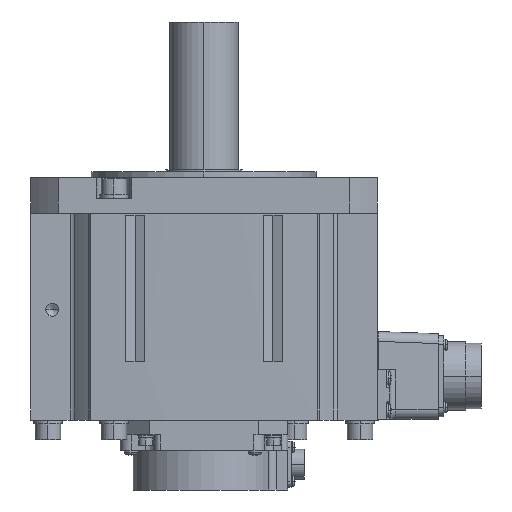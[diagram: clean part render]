
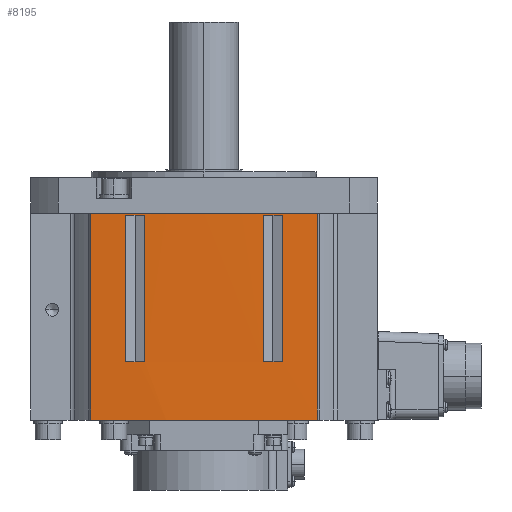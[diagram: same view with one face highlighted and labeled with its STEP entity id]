
A CAD part, left-side view. The second image highlights one B-rep face of the part: STEP entity #8195.
In plain terms, the highlighted cylindrical face has radius 1300 mm (diameter 2600 mm), a partial arc.
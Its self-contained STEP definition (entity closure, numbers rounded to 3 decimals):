
#17=CARTESIAN_POINT('',(1212.,0.,-19.));
#18=DIRECTION('',(0.,0.,1.));
#19=DIRECTION('',(-1.,-0.023,0.));
#20=AXIS2_PLACEMENT_3D('',#17,#18,#19);
#284=CARTESIAN_POINT('',(1212.,0.,-19.));
#285=DIRECTION('',(0.,0.,1.));
#286=DIRECTION('',(-1.,0.031,0.));
#287=AXIS2_PLACEMENT_3D('',#284,#285,#286);
#293=DIRECTION('',(0.,0.,-1.));
#294=VECTOR('',#293,74.5);
#295=CARTESIAN_POINT('',(-87.384,-40.,-19.));
#296=LINE('',#295,#294);
#297=CARTESIAN_POINT('',(1212.,0.,-93.5));
#298=DIRECTION('',(0.,0.,-1.));
#299=DIRECTION('',(-1.,-0.031,0.));
#300=AXIS2_PLACEMENT_3D('',#297,#298,#299);
#312=CARTESIAN_POINT('',(1212.,0.,-93.5));
#313=DIRECTION('',(0.,0.,-1.));
#314=DIRECTION('',(-1.,0.023,0.));
#315=AXIS2_PLACEMENT_3D('',#312,#313,#314);
#317=DIRECTION('',(0.,0.,1.));
#318=VECTOR('',#317,105.);
#319=CARTESIAN_POINT('',(-86.728,57.5,-123.));
#320=LINE('',#319,#318);
#325=DIRECTION('',(0.,0.,1.));
#326=VECTOR('',#325,74.5);
#327=CARTESIAN_POINT('',(-87.654,-30.,-93.5));
#328=LINE('',#327,#326);
#353=DIRECTION('',(0.,0.,1.));
#354=VECTOR('',#353,74.5);
#355=CARTESIAN_POINT('',(-87.384,40.,-93.5));
#356=LINE('',#355,#354);
#381=DIRECTION('',(0.,0.,-1.));
#382=VECTOR('',#381,74.5);
#383=CARTESIAN_POINT('',(-87.654,30.,-19.));
#384=LINE('',#383,#382);
#393=DIRECTION('',(0.,0.,1.));
#394=VECTOR('',#393,105.);
#395=CARTESIAN_POINT('',(-86.728,-57.5,-123.));
#396=LINE('',#395,#394);
#891=CARTESIAN_POINT('',(1212.,0.,-123.));
#892=DIRECTION('',(0.,0.,1.));
#893=DIRECTION('',(-0.999,0.044,0.));
#894=AXIS2_PLACEMENT_3D('',#891,#892,#893);
#4628=CARTESIAN_POINT('',(1212.,0.,-18.));
#4629=DIRECTION('',(0.,0.,-1.));
#4630=DIRECTION('',(-1.,0.,0.));
#4631=AXIS2_PLACEMENT_3D('',#4628,#4629,#4630);
#4805=CARTESIAN_POINT('',(1212.,0.,-18.));
#4806=DIRECTION('',(0.,0.,-1.));
#4807=DIRECTION('',(-0.999,-0.044,0.));
#4808=AXIS2_PLACEMENT_3D('',#4805,#4806,#4807);
#5873=CARTESIAN_POINT('',(-88.,0.,-18.));
#5875=VERTEX_POINT('',#5873);
#5888=CARTESIAN_POINT('',(-86.728,-57.5,-18.));
#5889=VERTEX_POINT('',#5888);
#5892=CARTESIAN_POINT('',(-86.728,57.5,-18.));
#5893=VERTEX_POINT('',#5892);
#6108=CARTESIAN_POINT('',(-86.728,57.5,-123.));
#6109=CARTESIAN_POINT('',(-86.728,-57.5,-123.));
#6110=VERTEX_POINT('',#6108);
#6111=VERTEX_POINT('',#6109);
#6997=CARTESIAN_POINT('',(-87.384,-40.,-19.));
#6999=VERTEX_POINT('',#6997);
#7005=CARTESIAN_POINT('',(-87.654,-30.,-19.));
#7006=VERTEX_POINT('',#7005);
#7155=CARTESIAN_POINT('',(-87.654,30.,-19.));
#7157=VERTEX_POINT('',#7155);
#7163=CARTESIAN_POINT('',(-87.384,40.,-19.));
#7164=VERTEX_POINT('',#7163);
#7165=CARTESIAN_POINT('',(-87.384,-40.,-93.5));
#7167=VERTEX_POINT('',#7165);
#7173=CARTESIAN_POINT('',(-87.654,-30.,-93.5));
#7174=VERTEX_POINT('',#7173);
#7323=CARTESIAN_POINT('',(-87.654,30.,-93.5));
#7325=VERTEX_POINT('',#7323);
#7331=CARTESIAN_POINT('',(-87.384,40.,-93.5));
#7332=VERTEX_POINT('',#7331);
#8163=CARTESIAN_POINT('',(1212.,0.,-18.5));
#8164=DIRECTION('',(0.,0.,-1.));
#8165=DIRECTION('',(-0.999,-0.044,0.));
#8166=AXIS2_PLACEMENT_3D('',#8163,#8164,#8165);
#8167=CYLINDRICAL_SURFACE('',#8166,1300.);
#8169=ORIENTED_EDGE('',*,*,#8168,.F.);
#8171=ORIENTED_EDGE('',*,*,#8170,.F.);
#8173=ORIENTED_EDGE('',*,*,#8172,.T.);
#8175=ORIENTED_EDGE('',*,*,#8174,.F.);
#8177=ORIENTED_EDGE('',*,*,#8176,.F.);
#8178=EDGE_LOOP('',(#8169,#8171,#8173,#8175,#8177));
#8179=FACE_OUTER_BOUND('',#8178,.F.);
#8181=ORIENTED_EDGE('',*,*,#8180,.F.);
#8182=ORIENTED_EDGE('',*,*,#8152,.F.);
#8184=ORIENTED_EDGE('',*,*,#8183,.F.);
#8185=ORIENTED_EDGE('',*,*,#7816,.F.);
#8186=EDGE_LOOP('',(#8181,#8182,#8184,#8185));
#8187=FACE_BOUND('',#8186,.F.);
#8189=ORIENTED_EDGE('',*,*,#8188,.F.);
#8190=ORIENTED_EDGE('',*,*,#7842,.F.);
#8191=ORIENTED_EDGE('',*,*,#7831,.F.);
#8192=ORIENTED_EDGE('',*,*,#7506,.F.);
#8193=EDGE_LOOP('',(#8189,#8190,#8191,#8192));
#8194=FACE_BOUND('',#8193,.F.);
#8195=ADVANCED_FACE('',(#8179,#8187,#8194),#8167,.T.);
#21=CIRCLE('',#20,1300.);
#288=CIRCLE('',#287,1300.);
#301=CIRCLE('',#300,1300.);
#316=CIRCLE('',#315,1300.);
#895=CIRCLE('',#894,1300.);
#4632=CIRCLE('',#4631,1300.);
#4809=CIRCLE('',#4808,1300.);
#7506=EDGE_CURVE('',#7006,#6999,#21,.T.);
#7816=EDGE_CURVE('',#7164,#7157,#288,.T.);
#7831=EDGE_CURVE('',#6999,#7167,#296,.T.);
#7842=EDGE_CURVE('',#7167,#7174,#301,.T.);
#8152=EDGE_CURVE('',#7325,#7332,#316,.T.);
#8168=EDGE_CURVE('',#6111,#5889,#396,.T.);
#8170=EDGE_CURVE('',#6110,#6111,#895,.T.);
#8172=EDGE_CURVE('',#6110,#5893,#320,.T.);
#8174=EDGE_CURVE('',#5875,#5893,#4632,.T.);
#8176=EDGE_CURVE('',#5889,#5875,#4809,.T.);
#8180=EDGE_CURVE('',#7332,#7164,#356,.T.);
#8183=EDGE_CURVE('',#7157,#7325,#384,.T.);
#8188=EDGE_CURVE('',#7174,#7006,#328,.T.);
